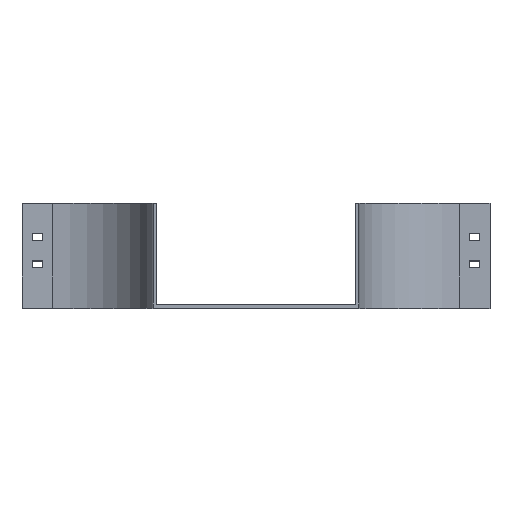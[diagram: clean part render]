
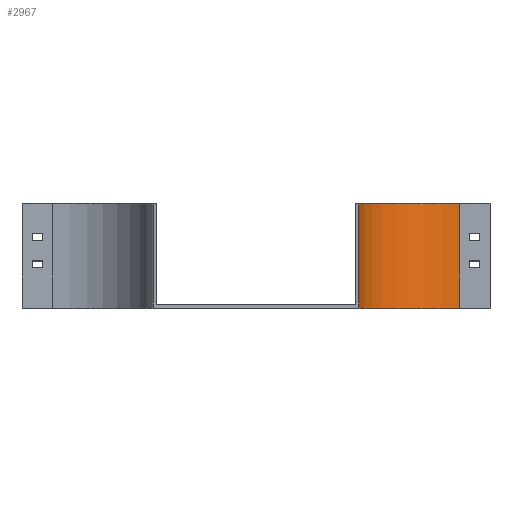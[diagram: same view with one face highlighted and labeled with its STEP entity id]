
A CAD part, top view. The second image highlights one B-rep face of the part: STEP entity #2967.
In plain terms, the highlighted cylindrical face has radius 100 mm (diameter 200 mm), a partial arc.
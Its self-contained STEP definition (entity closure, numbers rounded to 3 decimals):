
#12 = VERTEX_POINT ( 'NONE', #3743 ) ;
#20 = VERTEX_POINT ( 'NONE', #1070 ) ;
#41 = CARTESIAN_POINT ( 'NONE',  ( 0., 0., 0. ) ) ;
#70 = CIRCLE ( 'NONE', #750, 100. ) ;
#147 = CARTESIAN_POINT ( 'NONE',  ( 0., 104., 0. ) ) ;
#218 = LINE ( 'NONE', #3454, #2484 ) ;
#242 = EDGE_CURVE ( 'NONE', #12, #20, #348, .T. ) ;
#245 = VERTEX_POINT ( 'NONE', #679 ) ;
#348 = CIRCLE ( 'NONE', #2532, 100. ) ;
#402 = DIRECTION ( 'NONE',  ( 0., 0., -1. ) ) ;
#679 = CARTESIAN_POINT ( 'NONE',  ( -100., 104., 0. ) ) ;
#750 = AXIS2_PLACEMENT_3D ( 'NONE', #147, #1966, #3696 ) ;
#1006 = DIRECTION ( 'NONE',  ( 0., -1., 0. ) ) ;
#1070 = CARTESIAN_POINT ( 'NONE',  ( 0., 0., -100. ) ) ;
#1098 = DIRECTION ( 'NONE',  ( 0., 0., -1. ) ) ;
#1185 = ORIENTED_EDGE ( 'NONE', *, *, #1890, .F. ) ;
#1383 = CARTESIAN_POINT ( 'NONE',  ( 0., 104., 0. ) ) ;
#1480 = ORIENTED_EDGE ( 'NONE', *, *, #2008, .F. ) ;
#1680 = CYLINDRICAL_SURFACE ( 'NONE', #2421, 100. ) ;
#1776 = VECTOR ( 'NONE', #1006, 1000. ) ;
#1890 = EDGE_CURVE ( 'NONE', #2117, #20, #218, .T. ) ;
#1966 = DIRECTION ( 'NONE',  ( 0., -1., 0. ) ) ;
#2008 = EDGE_CURVE ( 'NONE', #245, #2117, #70, .T. ) ;
#2017 = ORIENTED_EDGE ( 'NONE', *, *, #2223, .T. ) ;
#2117 = VERTEX_POINT ( 'NONE', #2432 ) ;
#2223 = EDGE_CURVE ( 'NONE', #245, #12, #2817, .T. ) ;
#2421 = AXIS2_PLACEMENT_3D ( 'NONE', #1383, #3775, #1098 ) ;
#2432 = CARTESIAN_POINT ( 'NONE',  ( 0., 104., -100. ) ) ;
#2484 = VECTOR ( 'NONE', #2804, 1000. ) ;
#2532 = AXIS2_PLACEMENT_3D ( 'NONE', #41, #3045, #402 ) ;
#2804 = DIRECTION ( 'NONE',  ( 0., -1., 0. ) ) ;
#2817 = LINE ( 'NONE', #3408, #1776 ) ;
#2967 = ADVANCED_FACE ( 'NONE', ( #3165 ), #1680, .F. ) ;
#3045 = DIRECTION ( 'NONE',  ( 0., -1., 0. ) ) ;
#3165 = FACE_OUTER_BOUND ( 'NONE', #3604, .T. ) ;
#3362 = ORIENTED_EDGE ( 'NONE', *, *, #242, .T. ) ;
#3408 = CARTESIAN_POINT ( 'NONE',  ( -100., 104., 0. ) ) ;
#3454 = CARTESIAN_POINT ( 'NONE',  ( 0., 104., -100. ) ) ;
#3604 = EDGE_LOOP ( 'NONE', ( #3362, #1185, #1480, #2017 ) ) ;
#3696 = DIRECTION ( 'NONE',  ( 0., 0., -1. ) ) ;
#3743 = CARTESIAN_POINT ( 'NONE',  ( -100., 0., 0. ) ) ;
#3775 = DIRECTION ( 'NONE',  ( 0., -1., 0. ) ) ;
